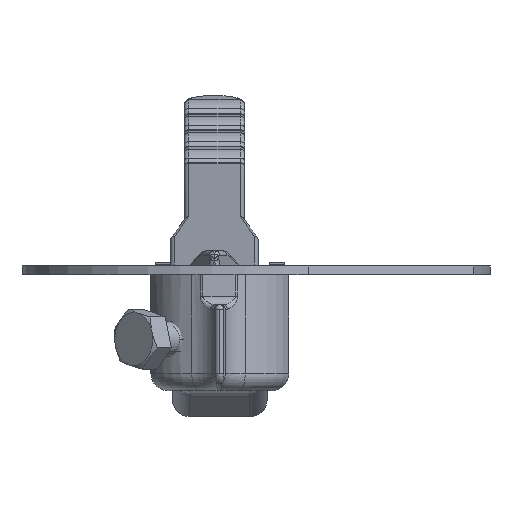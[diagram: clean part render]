
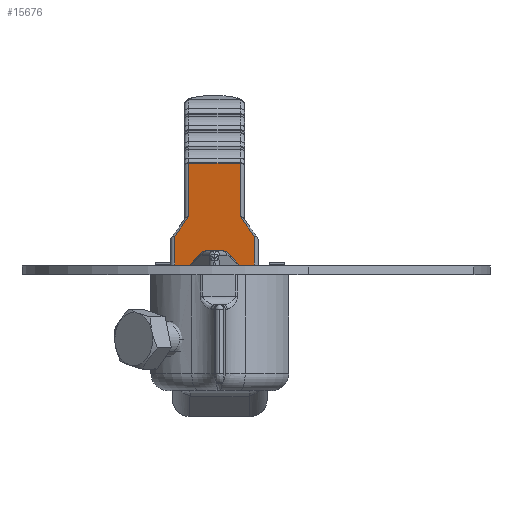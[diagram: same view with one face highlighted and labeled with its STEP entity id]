
A CAD part, left-side view. The second image highlights one B-rep face of the part: STEP entity #15676.
In plain terms, the highlighted planar face has unit normal (-0.191, 0, 0.982) as drawn and (-0.191, 0.982, 0) by its records, which use the part's own axes.
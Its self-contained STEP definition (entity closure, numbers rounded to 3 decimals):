
#2 = LINE ( 'NONE', #15194, #9571 ) ;
#59 = EDGE_CURVE ( 'NONE', #19456, #9191, #17350, .T. ) ;
#80 = CARTESIAN_POINT ( 'NONE',  ( 75.969, 25.463, 6. ) ) ;
#141 = CARTESIAN_POINT ( 'NONE',  ( 7.081, 12.073, -9.25 ) ) ;
#584 = AXIS2_PLACEMENT_3D ( 'NONE', #15316, #16972, #3816 ) ;
#1256 = VERTEX_POINT ( 'NONE', #14264 ) ;
#1699 = CARTESIAN_POINT ( 'NONE',  ( 139.755, 37.862, 6. ) ) ;
#2049 = DIRECTION ( 'NONE',  ( 0.973, 0.189, -0.135 ) ) ;
#2067 = CARTESIAN_POINT ( 'NONE',  ( 139.755, 37.862, -6. ) ) ;
#2631 = CARTESIAN_POINT ( 'NONE',  ( 7.081, 12.073, -9.25 ) ) ;
#2795 = ORIENTED_EDGE ( 'NONE', *, *, #20473, .T. ) ;
#2865 = EDGE_CURVE ( 'NONE', #19456, #10744, #8204, .T. ) ;
#3261 = DIRECTION ( 'NONE',  ( 0., 0., -1. ) ) ;
#3517 = EDGE_CURVE ( 'NONE', #6010, #21107, #3799, .T. ) ;
#3557 = VECTOR ( 'NONE', #15996, 1000. ) ;
#3596 = CARTESIAN_POINT ( 'NONE',  ( 7.081, 12.073, 9.25 ) ) ;
#3799 = LINE ( 'NONE', #12779, #3557 ) ;
#3809 = VERTEX_POINT ( 'NONE', #21047 ) ;
#3816 = DIRECTION ( 'NONE',  ( 0.982, 0.191, 0. ) ) ;
#4668 = CARTESIAN_POINT ( 'NONE',  ( 52.509, 20.903, 9.25 ) ) ;
#4684 = EDGE_CURVE ( 'NONE', #1256, #10744, #18932, .T. ) ;
#5179 = VECTOR ( 'NONE', #19949, 1000. ) ;
#5308 = ORIENTED_EDGE ( 'NONE', *, *, #17102, .T. ) ;
#5449 = PLANE ( 'NONE',  #584 ) ;
#6010 = VERTEX_POINT ( 'NONE', #2067 ) ;
#7434 = VECTOR ( 'NONE', #19894, 1000. ) ;
#7714 = VECTOR ( 'NONE', #3261, 1000. ) ;
#7930 = CARTESIAN_POINT ( 'NONE',  ( 75.969, 25.463, -6. ) ) ;
#8061 = FACE_OUTER_BOUND ( 'NONE', #9936, .T. ) ;
#8204 = LINE ( 'NONE', #9603, #10023 ) ;
#8480 = LINE ( 'NONE', #1699, #7434 ) ;
#8769 = LINE ( 'NONE', #11474, #7714 ) ;
#9191 = VERTEX_POINT ( 'NONE', #4668 ) ;
#9333 = EDGE_CURVE ( 'NONE', #3809, #6010, #8769, .T. ) ;
#9571 = VECTOR ( 'NONE', #2049, 1000. ) ;
#9603 = CARTESIAN_POINT ( 'NONE',  ( 7.081, 12.073, 10.25 ) ) ;
#9936 = EDGE_LOOP ( 'NONE', ( #5308, #2795, #20369, #17870, #13473, #16899, #11720, #13301 ) ) ;
#10023 = VECTOR ( 'NONE', #11257, 1000. ) ;
#10744 = VERTEX_POINT ( 'NONE', #2631 ) ;
#11257 = DIRECTION ( 'NONE',  ( 0., 0., -1. ) ) ;
#11474 = CARTESIAN_POINT ( 'NONE',  ( 139.755, 37.862, 10.25 ) ) ;
#11628 = VECTOR ( 'NONE', #19924, 1000. ) ;
#11720 = ORIENTED_EDGE ( 'NONE', *, *, #2865, .F. ) ;
#12779 = CARTESIAN_POINT ( 'NONE',  ( 7.081, 12.073, -6. ) ) ;
#13301 = ORIENTED_EDGE ( 'NONE', *, *, #59, .T. ) ;
#13473 = ORIENTED_EDGE ( 'NONE', *, *, #17957, .T. ) ;
#13747 = VECTOR ( 'NONE', #14245, 1000. ) ;
#14245 = DIRECTION ( 'NONE',  ( 0.982, 0.191, 0. ) ) ;
#14264 = CARTESIAN_POINT ( 'NONE',  ( 52.509, 20.903, -9.25 ) ) ;
#14762 = VERTEX_POINT ( 'NONE', #80 ) ;
#15194 = CARTESIAN_POINT ( 'NONE',  ( 75.904, 25.451, 6.009 ) ) ;
#15316 = CARTESIAN_POINT ( 'NONE',  ( 7.081, 12.073, 10.25 ) ) ;
#15676 = ADVANCED_FACE ( 'NONE', ( #8061 ), #5449, .F. ) ;
#15996 = DIRECTION ( 'NONE',  ( -0.982, -0.191, 0. ) ) ;
#16899 = ORIENTED_EDGE ( 'NONE', *, *, #4684, .T. ) ;
#16972 = DIRECTION ( 'NONE',  ( 0.191, -0.982, 0. ) ) ;
#17102 = EDGE_CURVE ( 'NONE', #9191, #14762, #2, .T. ) ;
#17350 = LINE ( 'NONE', #20800, #13747 ) ;
#17870 = ORIENTED_EDGE ( 'NONE', *, *, #3517, .T. ) ;
#17957 = EDGE_CURVE ( 'NONE', #21107, #1256, #20418, .T. ) ;
#18277 = CARTESIAN_POINT ( 'NONE',  ( 10.461, 12.73, -15.075 ) ) ;
#18932 = LINE ( 'NONE', #141, #5179 ) ;
#19456 = VERTEX_POINT ( 'NONE', #3596 ) ;
#19894 = DIRECTION ( 'NONE',  ( 0.982, 0.191, 0. ) ) ;
#19924 = DIRECTION ( 'NONE',  ( -0.973, -0.189, -0.135 ) ) ;
#19949 = DIRECTION ( 'NONE',  ( -0.982, -0.191, 0. ) ) ;
#20369 = ORIENTED_EDGE ( 'NONE', *, *, #9333, .T. ) ;
#20418 = LINE ( 'NONE', #18277, #11628 ) ;
#20473 = EDGE_CURVE ( 'NONE', #14762, #3809, #8480, .T. ) ;
#20800 = CARTESIAN_POINT ( 'NONE',  ( 7.081, 12.073, 9.25 ) ) ;
#21047 = CARTESIAN_POINT ( 'NONE',  ( 139.755, 37.862, 6. ) ) ;
#21107 = VERTEX_POINT ( 'NONE', #7930 ) ;
